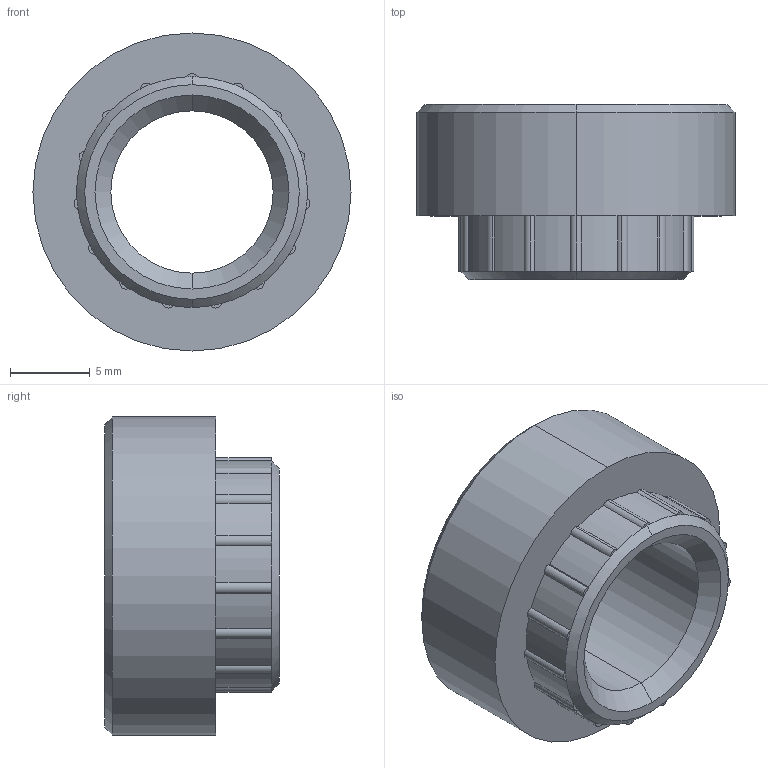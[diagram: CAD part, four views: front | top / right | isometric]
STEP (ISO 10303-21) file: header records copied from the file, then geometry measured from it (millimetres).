
FILE_DESCRIPTION (( 'STEP AP214' ), '1' );
FILE_NAME ('4.NR.01.02.STEP', '2016-10-11T10:52:07', ( '' ), ( '' ), 'SwSTEP 2.0', 'SolidWorks 2015', '' );
FILE_SCHEMA (( 'AUTOMOTIVE_DESIGN' ));
Length unit declared in the file: millimetre
Products named in the file (1): 4.NR.01.02
Bounding box: 20 x 11 x 20 mm (x, y, z)
Volume: 1918.6 mm3; surface area: 1380.2 mm2
Topology: 1 solids, 1 shells, 66 faces, 152 edges, 89 vertices
Faces by surface type: cylinder 40, plane 18, cone 8
Entity records: 1944 total; most frequent: DIRECTION 390, CARTESIAN_POINT 308, ORIENTED_EDGE 304, AXIS2_PLACEMENT_3D 171, EDGE_CURVE 152, CIRCLE 104, VERTEX_POINT 89, EDGE_LOOP 69
